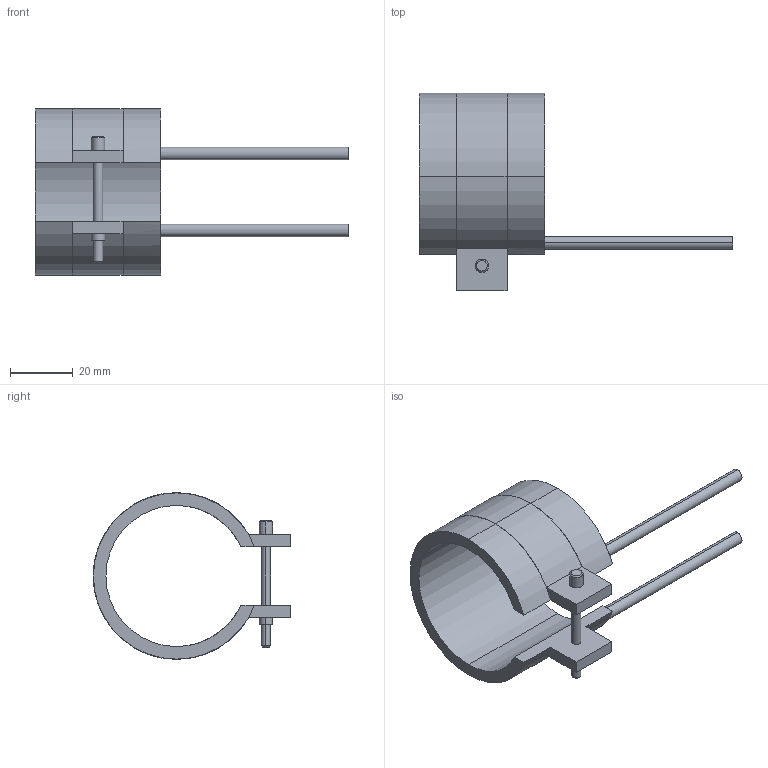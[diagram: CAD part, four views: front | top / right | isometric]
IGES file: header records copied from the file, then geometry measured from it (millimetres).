
Start section: START RECORD GO HERE.
Global section: file name: 14045040.igs; native system: DASSAULT SYSTEMES CATIA V5 R20 - www.3ds.com; preprocessor: CATIA Version 5 Release 20 ; author: Utente; organization: NB04-ASUS; date: 20210331.135825; units: millimetre
Bounding box: 100 x 63.1 x 53.2 mm (x, y, z)
Surface area: 15071.2 mm2 (no closed solid volume)
Topology: 0 solids, 0 shells, 45 faces, 232 edges, 232 vertices
Faces by surface type: revolution 28, plane 17
